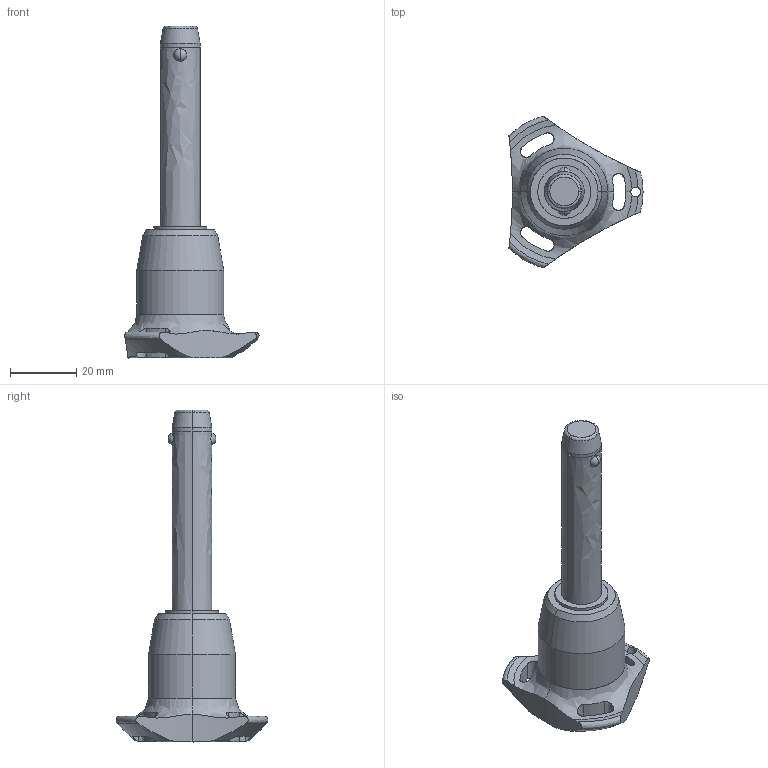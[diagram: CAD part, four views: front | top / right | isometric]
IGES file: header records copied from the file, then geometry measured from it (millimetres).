
Start section: SolidWorks IGES file using analytic representation for surfaces
Global section: file name: C:\Users\ianosborn\Desktop\33060_v2\33060.BK_v2_20240910_IGES\33060.W0870.igs; native system: SolidWorks 2019; preprocessor: SolidWorks 2019; author: IanOsborn; date: 240910.201538; units: millimetre
Bounding box: 40.5 x 45.88 x 100.3 mm (x, y, z)
Surface area: 8222.8 mm2 (no closed solid volume)
Topology: 0 solids, 0 shells, 68 faces, 1435 edges, 1431 vertices
Faces by surface type: revolution 52, bspline 16
